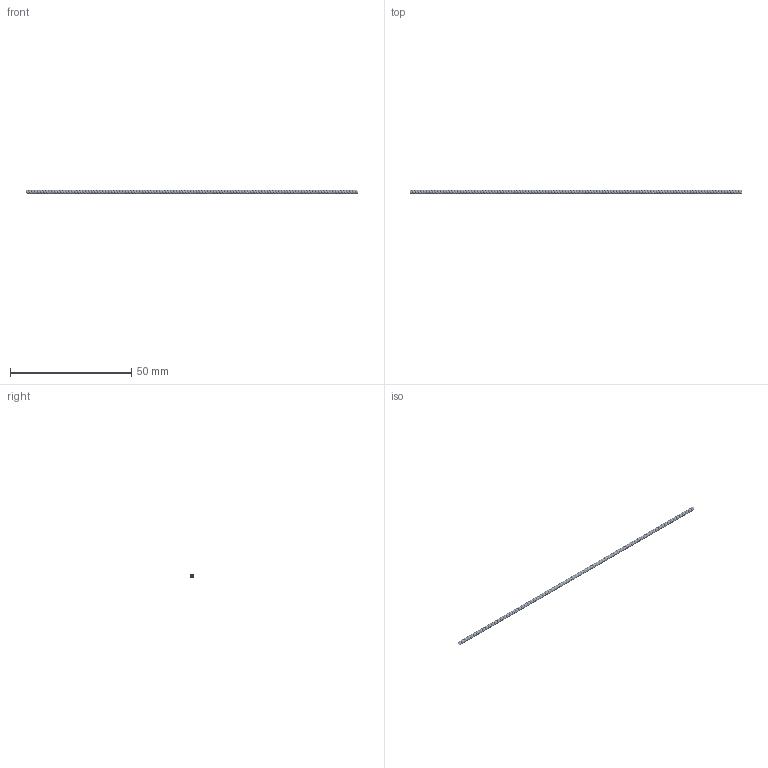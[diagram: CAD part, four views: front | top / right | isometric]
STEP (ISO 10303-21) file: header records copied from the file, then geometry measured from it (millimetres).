
FILE_DESCRIPTION((''),'2;1');
FILE_NAME('G062-012-0538-S','2014-06-23T',('carefree'),(''),'PRO/ENGINEER BY PARAMETRIC TECHNOLOGY CORPORATION, 2010020','PRO/ENGINEER BY PARAMETRIC TECHNOLOGY CORPORATION, 2010020','');
FILE_SCHEMA(('CONFIG_CONTROL_DESIGN'));
Products named in the file (1): G062-012-0538-S
Bounding box: 136.84 x 1.57 x 1.57 mm (x, y, z)
Volume: 129.7 mm3; surface area: 1708.9 mm2
Topology: 1 solids, 1 shells, 226 faces, 450 edges, 226 vertices
Faces by surface type: bspline 224, plane 2
Entity records: 89696 total; most frequent: CARTESIAN_POINT 86712, ORIENTED_EDGE 900, B_SPLINE_CURVE_WITH_KNOTS 450, EDGE_CURVE 450, VERTEX_POINT 226, EDGE_LOOP 226, FACE_OUTER_BOUND 226, ADVANCED_FACE 226
